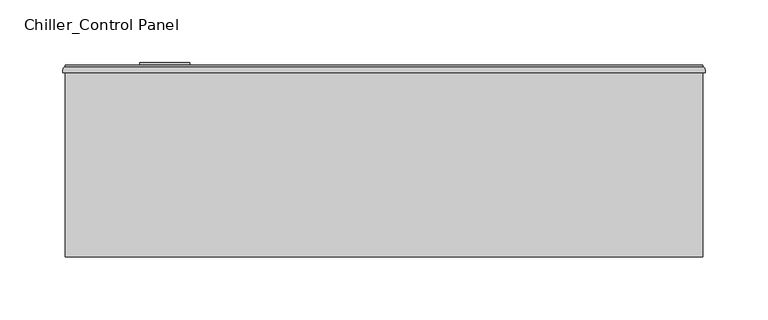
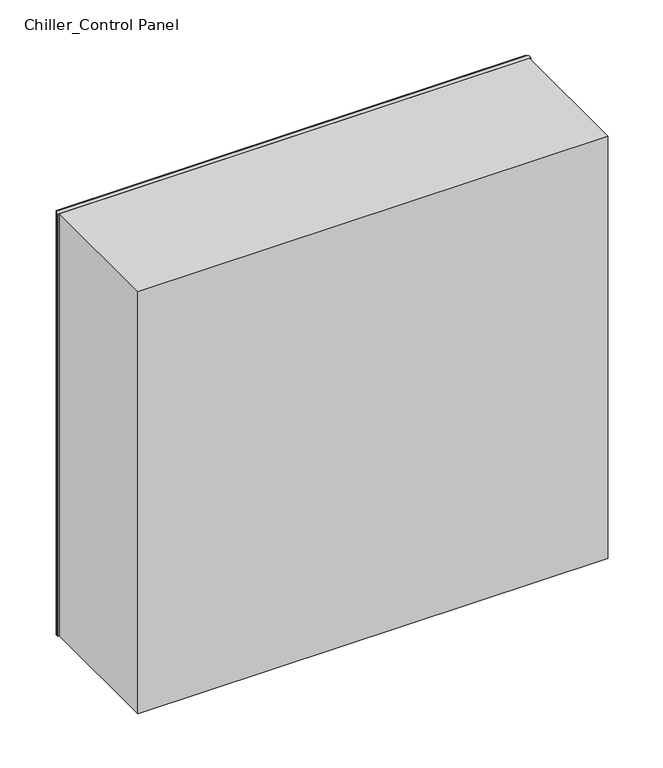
"""IFC4 building model written with IfcOpenShell, lengths in millimetres: proxy geometry, Chiller_Control_Panel_Wallmount_BIM_Model1 : Chiller_Control Panel."""

import ifcopenshell
import ifcopenshell.guid

model = None  # the IFC model being written
_history = None  # IfcOwnerHistory: only IFC2X3 demands one
_inside = {}  # id of a spatial element -> (the spatial element, [elements in it])
_under = {}  # id of a project, library or spatial element -> (it, [spatial elements below it])
_declared = {}  # id of a project -> (the project, [libraries it declares])
_typed = {}  # id of a type object -> (the type object, [elements of that type])
_made_of = {}  # id of a material, layer set ... -> (it, [elements and type objects made of it])


def new_model(schema):
    """Start an empty IFC model of exactly this schema.

    Asked for "IFC4X3", IfcOpenShell would pick the latest addendum, in which some entities
    have other attributes; the version numbers below select the first issue.
    IFC2X3 requires an IfcOwnerHistory on every rooted entity: one is made here for all.
    """
    global model, _history
    if schema == "IFC4X3":
        model = ifcopenshell.file(schema_version=(4, 3, 0, 0))
    else:
        model = ifcopenshell.file(schema=schema)
    _inside.clear()
    _under.clear()
    _declared.clear()
    _typed.clear()
    _made_of.clear()
    _history = None
    if model.schema == "IFC2X3":
        org = make("IfcOrganization", Name="unknown")
        user = make(
            "IfcPersonAndOrganization",
            ThePerson=make("IfcPerson", FamilyName="unknown"),
            TheOrganization=org,
        )
        app = make(
            "IfcApplication",
            ApplicationDeveloper=org,
            Version="unknown",
            ApplicationFullName="unknown",
            ApplicationIdentifier="unknown",
        )
        _history = make(
            "IfcOwnerHistory",
            OwningUser=user,
            OwningApplication=app,
            ChangeAction="ADDED",
            CreationDate=0,
        )
    return model


def make(cls, **values):
    """One entity of the class cls with the attributes given. An attribute that is None is left unset."""
    return model.create_entity(
        cls, **{name: value for name, value in values.items() if value is not None}
    )


def rooted(cls, **values):
    """An entity with a GlobalId (a new one), such as an element, a storey or a relation."""
    return make(cls, GlobalId=ifcopenshell.guid.new(), OwnerHistory=_history, **values)


def si_unit(unit_type, name, prefix=None):
    """IfcSIUnit, for example si_unit("LENGTHUNIT", "METRE", prefix="MILLI")."""
    return make("IfcSIUnit", UnitType=unit_type, Prefix=prefix, Name=name)


def assignment(units):
    """IfcUnitAssignment: the units of a project."""
    return None if units is None else make("IfcUnitAssignment", Units=units)


def point(xyz):
    """IfcCartesianPoint."""
    return None if xyz is None else make("IfcCartesianPoint", Coordinates=xyz)


def direction(xyz):
    """IfcDirection."""
    return None if xyz is None else make("IfcDirection", DirectionRatios=xyz)


def frame(location, z_axis=None, x_axis=None):
    """IfcAxis2Placement3D, a coordinate frame: its origin and axes. An axis left out is left unset."""
    return make(
        "IfcAxis2Placement3D",
        Location=point(location),
        Axis=direction(z_axis),
        RefDirection=direction(x_axis),
    )


def frame_2d(location, x_axis=None):
    """IfcAxis2Placement2D, a coordinate frame in the plane: its origin and x axis."""
    return make(
        "IfcAxis2Placement2D", Location=point(location), RefDirection=direction(x_axis)
    )


def origin():
    """The frame at (0, 0, 0) with its axes left unset."""
    return frame((0.0, 0.0, 0.0))


def place(relative_to, where):
    """IfcLocalPlacement: puts the frame where relative to a parent placement (None: the world)."""
    return make(
        "IfcLocalPlacement", PlacementRelTo=relative_to, RelativePlacement=where
    )


def context(
    kind, dimensions, precision=None, world=None, true_north=None, identifier=None
):
    """IfcGeometricRepresentationContext, for example the 3D "Model" context."""
    return make(
        "IfcGeometricRepresentationContext",
        ContextIdentifier=identifier,
        ContextType=kind,
        CoordinateSpaceDimension=dimensions,
        Precision=precision,
        WorldCoordinateSystem=world,
        TrueNorth=true_north,
    )


def project(units=None, contexts=None):
    """IfcProject with its units and contexts."""
    return rooted(
        "IfcProject",
        Name="project",
        RepresentationContexts=contexts,
        UnitsInContext=assignment(units),
    )


def spatial(cls, under=None, at=None, **own):
    """A site, building, storey or space (cls), placed at a placement, below another one or the project."""
    s = rooted(cls, ObjectPlacement=at, **own)
    if under is not None:
        _under.setdefault(under.id(), (under, []))[1].append(s)
    return s


def polyline(points):
    """IfcPolyline through the points."""
    return make("IfcPolyline", Points=[point(p) for p in points])


def circle_curve(where, radius):
    """IfcCircle in the frame where."""
    return make("IfcCircle", Position=where, Radius=radius)


def trimmed(basis, trim1, trim2, sense, master):
    """IfcTrimmedCurve: the piece of a basis curve between two trims."""
    return make(
        "IfcTrimmedCurve",
        BasisCurve=basis,
        Trim1=trim1,
        Trim2=trim2,
        SenseAgreement=sense,
        MasterRepresentation=master,
    )


def segment(curve, same_sense, transition):
    """IfcCompositeCurveSegment."""
    return make(
        "IfcCompositeCurveSegment",
        Transition=transition,
        SameSense=same_sense,
        ParentCurve=curve,
    )


def composite_curve(segments, self_intersect=None):
    """IfcCompositeCurve: segments joined end to end."""
    return make("IfcCompositeCurve", Segments=segments, SelfIntersect=self_intersect)


def outline(outer, holes=None, kind="AREA"):
    """IfcArbitraryClosedProfileDef: a profile drawn as a closed curve; with holes, ...WithVoids."""
    if holes is None:
        return make("IfcArbitraryClosedProfileDef", ProfileType=kind, OuterCurve=outer)
    return make(
        "IfcArbitraryProfileDefWithVoids",
        ProfileType=kind,
        OuterCurve=outer,
        InnerCurves=holes,
    )


def extrude(swept, where, along, depth):
    """IfcExtrudedAreaSolid: the profile swept, set in the frame where, extruded along a direction by depth."""
    return make(
        "IfcExtrudedAreaSolid",
        SweptArea=swept,
        Position=where,
        ExtrudedDirection=direction(along),
        Depth=depth,
    )


def shape(context_of_items, identifier, shape_type, items):
    """IfcShapeRepresentation: the items that make up one representation, for example the "Body"."""
    return make(
        "IfcShapeRepresentation",
        ContextOfItems=context_of_items,
        RepresentationIdentifier=identifier,
        RepresentationType=shape_type,
        Items=items,
    )


def source(mapping_origin, context_of_items, identifier, shape_type, items):
    """IfcRepresentationMap: a shape defined once, which mapped items show again and again."""
    return make(
        "IfcRepresentationMap",
        MappingOrigin=mapping_origin,
        MappedRepresentation=shape(context_of_items, identifier, shape_type, items),
    )


def transform(
    local_origin,
    x_axis=None,
    y_axis=None,
    z_axis=None,
    scale=None,
    scale2=None,
    scale3=None,
    uniform=True,
):
    """IfcCartesianTransformationOperator3D, or its non-uniform kind. x_axis, y_axis, z_axis: its Axis1, 2, 3."""
    if uniform:
        return make(
            "IfcCartesianTransformationOperator3D",
            Axis1=direction(x_axis),
            Axis2=direction(y_axis),
            LocalOrigin=point(local_origin),
            Scale=scale,
            Axis3=direction(z_axis),
        )
    return make(
        "IfcCartesianTransformationOperator3DnonUniform",
        Axis1=direction(x_axis),
        Axis2=direction(y_axis),
        LocalOrigin=point(local_origin),
        Scale=scale,
        Axis3=direction(z_axis),
        Scale2=scale2,
        Scale3=scale3,
    )


def mapped(mapping_source, mapping_target):
    """IfcMappedItem: shows the shape of a source again, moved by a transform."""
    return make(
        "IfcMappedItem", MappingSource=mapping_source, MappingTarget=mapping_target
    )


def made_of(thing, what):
    """Note that an element or type object is made of a material, layer set ...; save() writes the relation."""
    if what is not None:
        _made_of.setdefault(what.id(), (what, []))[1].append(thing)
    return thing


def element(
    cls,
    number,
    at=None,
    inside=None,
    cuts=None,
    type_object=None,
    material=None,
    context=None,
    identifier="Body",
    shape_type=None,
    held_by="IfcProductDefinitionShape",
    body=None,
    shapes=None,
    **own,
):
    """One element of the class cls, such as IfcWall. Its Tag is "e" and its number.

    at: its placement. inside: the storey or other place that contains it. cuts: it is an
    opening in that element (IfcRelVoidsElement). A single representation is given by context,
    identifier, shape_type and body (its items); several are given by shapes. held_by: the class
    of the entity that holds the representations. save() writes the other relations.
    """
    e = rooted(cls, Tag="e%d" % number, ObjectPlacement=at, **own)
    if body is not None:
        shapes = [shape(context, identifier, shape_type, body)]
    if shapes is not None:
        e.Representation = make(held_by, Representations=shapes)
    if inside is not None:
        _inside.setdefault(inside.id(), (inside, []))[1].append(e)
    if cuts is not None:
        rooted(
            "IfcRelVoidsElement", RelatingBuildingElement=cuts, RelatedOpeningElement=e
        )
    if type_object is not None:
        _typed.setdefault(type_object.id(), (type_object, []))[1].append(e)
    return made_of(e, material)


def aggregate(whole, parts):
    """IfcRelAggregates: a whole, such as a stair, and the parts it consists of."""
    return rooted("IfcRelAggregates", RelatingObject=whole, RelatedObjects=parts)


def save(model, path):
    """Write the relations noted so far, then the file.

    IfcRelAggregates (storeys below a building ...), IfcRelContainedInSpatialStructure (elements
    in a storey), IfcRelDefinesByType, IfcRelAssociatesMaterial and IfcRelDeclares: one each for
    every whole, place, type object, material and project.
    """
    for whole, parts in _under.values():
        aggregate(whole, parts)
    for where, things in _inside.values():
        rooted(
            "IfcRelContainedInSpatialStructure",
            RelatedElements=things,
            RelatingStructure=where,
        )
    for kind, things in _typed.values():
        rooted("IfcRelDefinesByType", RelatedObjects=things, RelatingType=kind)
    for what, things in _made_of.values():
        rooted("IfcRelAssociatesMaterial", RelatedObjects=things, RelatingMaterial=what)
    for by, libraries in _declared.values():
        rooted("IfcRelDeclares", RelatingContext=by, RelatedDefinitions=libraries)
    model.write(path)


def chiller_control_panel_e52f6bb3(model_context):
    return source(origin(), model_context, "Body", "SweptSolid", [
        extrude(outline(polyline([(379.0, 303.0), (-129.0, 303.0), (-129.0, 304.0), (379.0, 304.0), (379.0, 303.0)])), frame((0.0, 0.0, 460.0), z_axis=(0.0, 0.0, 1.0), x_axis=(1.0, 0.0, 0.0)), (0.0, 0.0, 1.0), 483.0),
        extrude(outline(composite_curve([segment(trimmed(circle_curve(frame_2d((706.0, -49.7274277)), 20.0), [point((706.0, -69.7274277))], [point((706.0, -29.7274277))], False, "CARTESIAN"), True, "CONTINUOUS"), segment(trimmed(circle_curve(frame_2d((706.0, -49.7274277)), 20.0), [point((706.0, -29.7274277))], [point((706.0, -69.7274277))], False, "CARTESIAN"), True, "CONTINUOUS")], self_intersect=False), holes=[polyline([(713.2746144, -51.5031745), (713.2746144, -46.5031745), (698.2746144, -46.5031745), (698.2746144, -51.5031745), (713.2746144, -51.5031745)])]), frame((0.0, 303.0, 0.0), z_axis=(0.0, 1.0, 0.0), x_axis=(0.0, 0.0, 1.0)), (0.0, 0.0, 1.0), 3.0),
        extrude(outline(composite_curve([segment(trimmed(circle_curve(frame_2d((378.0, 300.0)), 3.0), [point((378.0, 303.0))], [point((381.0, 300.0))], False, "CARTESIAN"), True, "CONTINUOUS"), segment(polyline([(381.0, 300.0), (381.0, 298.1182851), (-131.0, 298.1182851), (-131.0, 300.0)]), True, "CONTINUOUS"), segment(trimmed(circle_curve(frame_2d((-128.0, 300.0)), 3.0), [point((-131.0, 300.0))], [point((-128.0, 303.0))], False, "CARTESIAN"), True, "CONTINUOUS"), segment(polyline([(-128.0, 303.0), (378.0, 303.0)]), True, "CONTINUOUS")], self_intersect=False)), frame((0.0, 0.0, 460.0), z_axis=(0.0, 0.0, 1.0), x_axis=(1.0, 0.0, 0.0)), (0.0, 0.0, 1.0), 483.0),
        extrude(outline(polyline([(379.0, 298.1182851), (379.0, 151.0), (-129.0, 151.0), (-129.0, 298.1182851), (379.0, 298.1182851)])), frame((0.0, 0.0, 460.0), z_axis=(0.0, 0.0, 1.0), x_axis=(1.0, 0.0, 0.0)), (0.0, 0.0, 1.0), 483.0),
    ])


if __name__ == "__main__":
    model = new_model("IFC4")
    model_context = context("Model", 3, world=origin())
    ifc_project = project(units=[si_unit("LENGTHUNIT", "METRE", prefix="MILLI")], contexts=[model_context])
    site = spatial("IfcSite", under=ifc_project)
    building = spatial("IfcBuilding", under=site)
    placement = place(None, origin())
    chiller_control_panel_shape = chiller_control_panel_e52f6bb3(model_context)
    element("IfcBuildingElementProxy", 1, Name="Chiller_Control_Panel_Wallmount_BIM_Model1 : Chiller_Control Panel", ObjectType="Chiller_Control_Panel_Wallmount_BIM_Model1 : Chiller_Control Panel", at=placement, inside=building, context=model_context, shape_type="MappedRepresentation", body=[
        mapped(chiller_control_panel_shape, transform((0.0, 0.0, 0.0), x_axis=(1.0, 0.0, 0.0), y_axis=(0.0, 1.0, 0.0), z_axis=(0.0, 0.0, 1.0))),
    ])
    save(model, "model.ifc")
